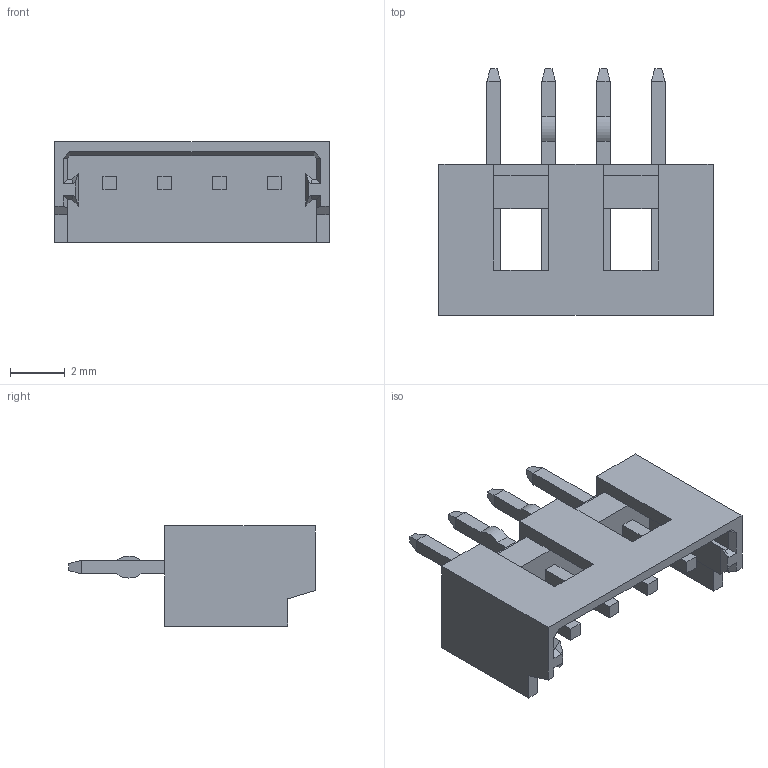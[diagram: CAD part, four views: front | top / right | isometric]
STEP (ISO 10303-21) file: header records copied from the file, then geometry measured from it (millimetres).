
FILE_DESCRIPTION(/* description */ (''),/* implementation_level */ '2;1');
FILE_NAME(/* name */ '532530470wbm000_01_214.stp',/* time_stamp */ '2023-11-29T08:27:02+06:00',/* author */ (''),/* organization */ (''),/* preprocessor_version */ 'ST-DEVELOPER v16.7',/* originating_system */ 'SIEMENS PLM Software NX 1919',/* authorisation */ '');
FILE_SCHEMA (('AUTOMOTIVE_DESIGN { 1 0 10303 214 3 1 1 1 }'));
Length unit declared in the file: millimetre
Products named in the file (1): 532530470wbm000_01
Bounding box: 10 x 9 x 3.65 mm (x, y, z)
Volume: 88.9 mm3; surface area: 296.2 mm2
Topology: 1 solids, 1 shells, 121 faces, 309 edges, 194 vertices
Faces by surface type: plane 117, cylinder 4
Entity records: 3575 total; most frequent: CARTESIAN_POINT 625, ORIENTED_EDGE 618, DIRECTION 561, EDGE_CURVE 309, LINE 301, VECTOR 301, VERTEX_POINT 194, AXIS2_PLACEMENT_3D 130
